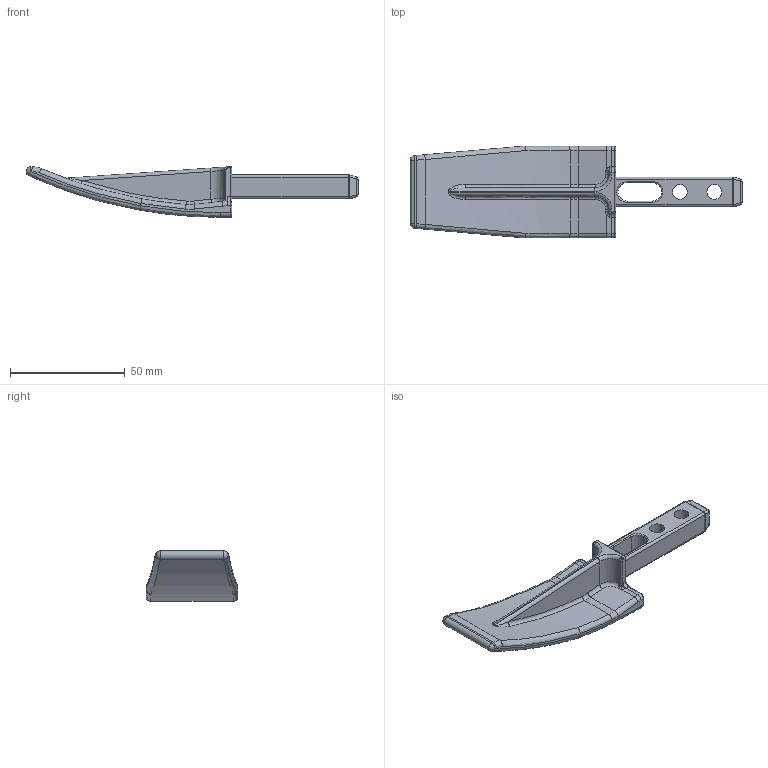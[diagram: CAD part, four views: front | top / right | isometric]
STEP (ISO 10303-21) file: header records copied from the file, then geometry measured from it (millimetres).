
FILE_DESCRIPTION (( 'STEP AP214' ), '1' );
FILE_NAME ('955-013.STEP', '2022-10-10T12:31:16', ( '' ), ( '' ), 'SwSTEP 2.0', 'SolidWorks 2022', '' );
FILE_SCHEMA (( 'AUTOMOTIVE_DESIGN' ));
Length unit declared in the file: millimetre
Products named in the file (1): 955-013
Bounding box: 144.49 x 40 x 22.05 mm (x, y, z)
Volume: 25780.7 mm3; surface area: 12688.4 mm2
Topology: 1 solids, 1 shells, 164 faces, 385 edges, 216 vertices
Faces by surface type: cylinder 65, bspline 56, plane 43
Full cylindrical faces by diameter (mm): 6.5 x2
Entity records: 5998 total; most frequent: CARTESIAN_POINT 2582, ORIENTED_EDGE 746, DIRECTION 655, EDGE_CURVE 373, AXIS2_PLACEMENT_3D 245, VERTEX_POINT 216, EDGE_LOOP 175, FACE_OUTER_BOUND 166
